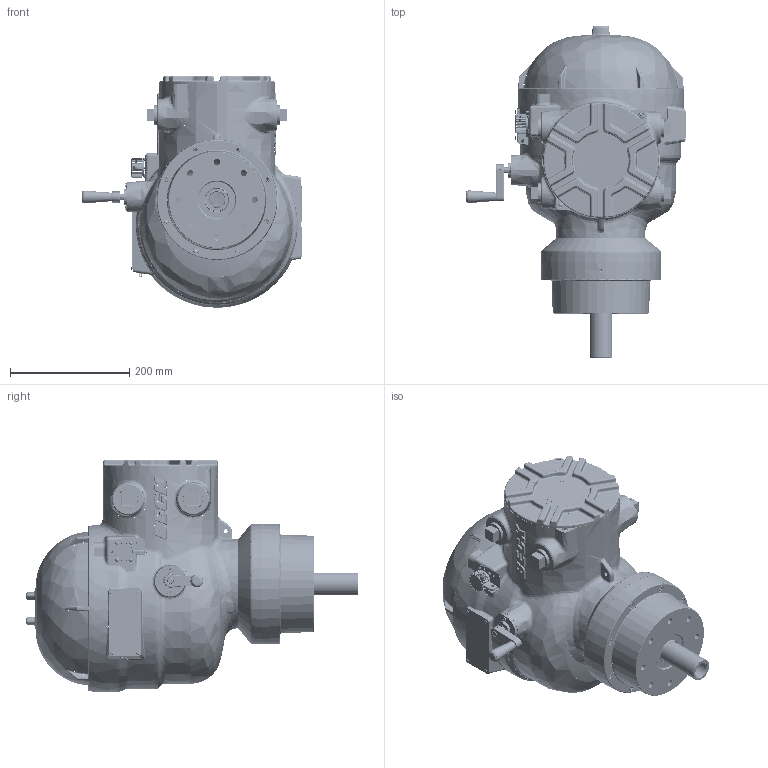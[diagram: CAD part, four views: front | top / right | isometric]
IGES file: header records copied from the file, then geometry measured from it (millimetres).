
Start section: SolidWorks IGES file using analytic representation for surfaces
Global section: file name: J:\Engineering\USERS\BEH\Group 57\Website Models\G57-200 18-5700-10\18-5700-10_Long-Shaft.IGS; native system: SolidWorks 2019; preprocessor: SolidWorks 2019; author: beheisey; date: 220914.091903; units: inch
Bounding box: 370.33 x 556.82 x 388.43 mm (x, y, z)
Surface area: 652185.1 mm2 (no closed solid volume)
Topology: 0 solids, 0 shells, 1913 faces, 43567 edges, 43500 vertices
Faces by surface type: bspline 1214, revolution 699
